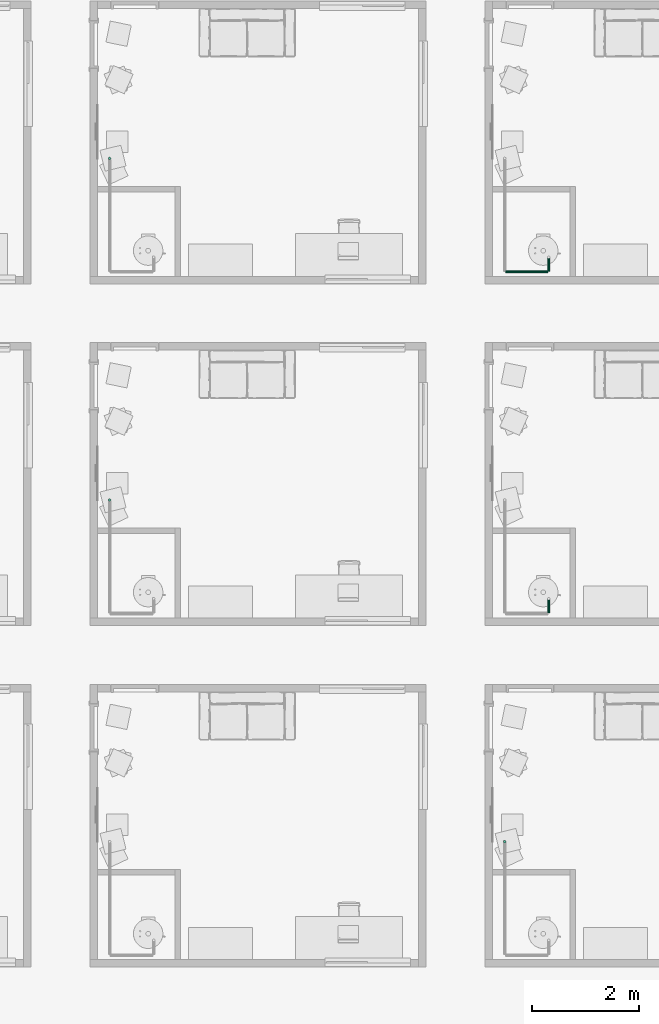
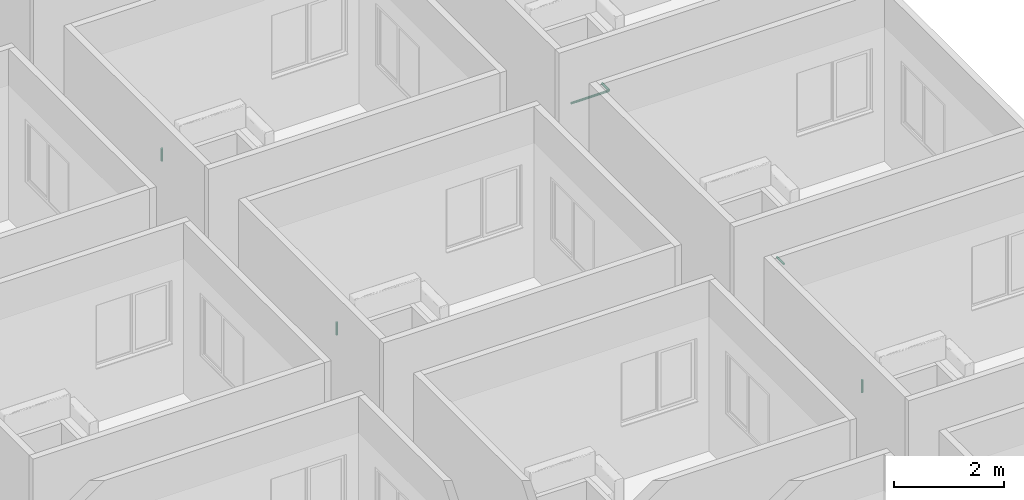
# One storey, part 50 of 69: 6 pipe segments.
"""IFC4 building model written with IfcOpenShell, lengths in centimetres."""

import ifcopenshell
import ifcopenshell.guid

model = None  # the IFC model being written
_history = None  # IfcOwnerHistory: only IFC2X3 demands one
_inside = {}  # id of a spatial element -> (the spatial element, [elements in it])
_under = {}  # id of a project, library or spatial element -> (it, [spatial elements below it])
_declared = {}  # id of a project -> (the project, [libraries it declares])
_typed = {}  # id of a type object -> (the type object, [elements of that type])
_made_of = {}  # id of a material, layer set ... -> (it, [elements and type objects made of it])


def new_model(schema):
    """Start an empty IFC model of exactly this schema.

    Asked for "IFC4X3", IfcOpenShell would pick the latest addendum, in which some entities
    have other attributes; the version numbers below select the first issue.
    IFC2X3 requires an IfcOwnerHistory on every rooted entity: one is made here for all.
    """
    global model, _history
    if schema == "IFC4X3":
        model = ifcopenshell.file(schema_version=(4, 3, 0, 0))
    else:
        model = ifcopenshell.file(schema=schema)
    _inside.clear()
    _under.clear()
    _declared.clear()
    _typed.clear()
    _made_of.clear()
    _history = None
    if model.schema == "IFC2X3":
        org = make("IfcOrganization", Name="unknown")
        user = make(
            "IfcPersonAndOrganization",
            ThePerson=make("IfcPerson", FamilyName="unknown"),
            TheOrganization=org,
        )
        app = make(
            "IfcApplication",
            ApplicationDeveloper=org,
            Version="unknown",
            ApplicationFullName="unknown",
            ApplicationIdentifier="unknown",
        )
        _history = make(
            "IfcOwnerHistory",
            OwningUser=user,
            OwningApplication=app,
            ChangeAction="ADDED",
            CreationDate=0,
        )
    return model


def make(cls, **values):
    """One entity of the class cls with the attributes given. An attribute that is None is left unset."""
    return model.create_entity(
        cls, **{name: value for name, value in values.items() if value is not None}
    )


def entity(cls, *values):
    """Any entity or typed value of the class cls, its attributes in the order of the schema. None: left unset."""
    e = model.create_entity(cls)
    for i, value in enumerate(values):
        if value is not None:
            e[i] = value
    return e


def rooted(cls, **values):
    """An entity with a GlobalId (a new one), such as an element, a storey or a relation."""
    return make(cls, GlobalId=ifcopenshell.guid.new(), OwnerHistory=_history, **values)


def si_unit(unit_type, name, prefix=None):
    """IfcSIUnit, for example si_unit("LENGTHUNIT", "METRE", prefix="MILLI")."""
    return make("IfcSIUnit", UnitType=unit_type, Prefix=prefix, Name=name)


def converted_unit(unit_type, name, factor, base, dimensions=None, offset=None):
    """IfcConversionBasedUnit, such as the inch: factor (a typed value) times the base unit."""
    return make(
        "IfcConversionBasedUnit"
        if offset is None
        else "IfcConversionBasedUnitWithOffset",
        ConversionOffset=offset,
        Dimensions=None
        if dimensions is None
        else entity("IfcDimensionalExponents", *dimensions),
        UnitType=unit_type,
        Name=name,
        ConversionFactor=make(
            "IfcMeasureWithUnit", ValueComponent=factor, UnitComponent=base
        ),
    )


def derived_unit(unit_type, elements):
    """IfcDerivedUnit: a product of units, each with its exponent."""
    return make(
        "IfcDerivedUnit",
        Elements=[
            make("IfcDerivedUnitElement", Unit=unit, Exponent=power)
            for unit, power in elements
        ],
        UnitType=unit_type,
    )


def assignment(units):
    """IfcUnitAssignment: the units of a project."""
    return None if units is None else make("IfcUnitAssignment", Units=units)


def point(xyz):
    """IfcCartesianPoint."""
    return None if xyz is None else make("IfcCartesianPoint", Coordinates=xyz)


def direction(xyz):
    """IfcDirection."""
    return None if xyz is None else make("IfcDirection", DirectionRatios=xyz)


def frame(location, z_axis=None, x_axis=None):
    """IfcAxis2Placement3D, a coordinate frame: its origin and axes. An axis left out is left unset."""
    return make(
        "IfcAxis2Placement3D",
        Location=point(location),
        Axis=direction(z_axis),
        RefDirection=direction(x_axis),
    )


def origin():
    """The frame at (0, 0, 0) with its axes left unset."""
    return frame((0.0, 0.0, 0.0))


def place(relative_to, where):
    """IfcLocalPlacement: puts the frame where relative to a parent placement (None: the world)."""
    return make(
        "IfcLocalPlacement", PlacementRelTo=relative_to, RelativePlacement=where
    )


def context(
    kind, dimensions, precision=None, world=None, true_north=None, identifier=None
):
    """IfcGeometricRepresentationContext, for example the 3D "Model" context."""
    return make(
        "IfcGeometricRepresentationContext",
        ContextIdentifier=identifier,
        ContextType=kind,
        CoordinateSpaceDimension=dimensions,
        Precision=precision,
        WorldCoordinateSystem=world,
        TrueNorth=true_north,
    )


def subcontext(parent, identifier, kind, view, scale=None):
    """IfcGeometricRepresentationSubContext, for example "Body" below "Model"."""
    return make(
        "IfcGeometricRepresentationSubContext",
        ContextIdentifier=identifier,
        ContextType=kind,
        ParentContext=parent,
        TargetScale=scale,
        TargetView=view,
    )


def project(units=None, contexts=None):
    """IfcProject with its units and contexts."""
    return rooted(
        "IfcProject",
        Name="project",
        RepresentationContexts=contexts,
        UnitsInContext=assignment(units),
    )


def spatial(cls, under=None, at=None, **own):
    """A site, building, storey or space (cls), placed at a placement, below another one or the project."""
    s = rooted(cls, ObjectPlacement=at, **own)
    if under is not None:
        _under.setdefault(under.id(), (under, []))[1].append(s)
    return s


def point_list(points):
    """IfcCartesianPointList2D or 3D."""
    cls = (
        "IfcCartesianPointList2D" if len(points[0]) == 2 else "IfcCartesianPointList3D"
    )
    return make(cls, CoordList=points)


def arc(*indices):
    """IfcArcIndex: an arc through three numbered points of an indexed curve."""
    return model.create_entity("IfcArcIndex", indices)


def indexed_curve(points, segments=None, self_intersect=None):
    """IfcIndexedPolyCurve: lines and arcs through numbered points (the first is 1)."""
    return make(
        "IfcIndexedPolyCurve",
        Points=point_list(points),
        Segments=segments,
        SelfIntersect=self_intersect,
    )


def outline(outer, holes=None, kind="AREA"):
    """IfcArbitraryClosedProfileDef: a profile drawn as a closed curve; with holes, ...WithVoids."""
    if holes is None:
        return make("IfcArbitraryClosedProfileDef", ProfileType=kind, OuterCurve=outer)
    return make(
        "IfcArbitraryProfileDefWithVoids",
        ProfileType=kind,
        OuterCurve=outer,
        InnerCurves=holes,
    )


def extrude(swept, where, along, depth):
    """IfcExtrudedAreaSolid: the profile swept, set in the frame where, extruded along a direction by depth."""
    return make(
        "IfcExtrudedAreaSolid",
        SweptArea=swept,
        Position=where,
        ExtrudedDirection=direction(along),
        Depth=depth,
    )


def shape(context_of_items, identifier, shape_type, items):
    """IfcShapeRepresentation: the items that make up one representation, for example the "Body"."""
    return make(
        "IfcShapeRepresentation",
        ContextOfItems=context_of_items,
        RepresentationIdentifier=identifier,
        RepresentationType=shape_type,
        Items=items,
    )


def made_of(thing, what):
    """Note that an element or type object is made of a material, layer set ...; save() writes the relation."""
    if what is not None:
        _made_of.setdefault(what.id(), (what, []))[1].append(thing)
    return thing


def type_object(cls, material=None, **own):
    """A type object (cls), such as IfcWallType, which elements share."""
    return made_of(rooted(cls, **own), material)


def element(
    cls,
    number,
    at=None,
    inside=None,
    cuts=None,
    type_object=None,
    material=None,
    context=None,
    identifier="Body",
    shape_type=None,
    held_by="IfcProductDefinitionShape",
    body=None,
    shapes=None,
    **own,
):
    """One element of the class cls, such as IfcWall. Its Tag is "e" and its number.

    at: its placement. inside: the storey or other place that contains it. cuts: it is an
    opening in that element (IfcRelVoidsElement). A single representation is given by context,
    identifier, shape_type and body (its items); several are given by shapes. held_by: the class
    of the entity that holds the representations. save() writes the other relations.
    """
    e = rooted(cls, Tag="e%d" % number, ObjectPlacement=at, **own)
    if body is not None:
        shapes = [shape(context, identifier, shape_type, body)]
    if shapes is not None:
        e.Representation = make(held_by, Representations=shapes)
    if inside is not None:
        _inside.setdefault(inside.id(), (inside, []))[1].append(e)
    if cuts is not None:
        rooted(
            "IfcRelVoidsElement", RelatingBuildingElement=cuts, RelatedOpeningElement=e
        )
    if type_object is not None:
        _typed.setdefault(type_object.id(), (type_object, []))[1].append(e)
    return made_of(e, material)


def aggregate(whole, parts):
    """IfcRelAggregates: a whole, such as a stair, and the parts it consists of."""
    return rooted("IfcRelAggregates", RelatingObject=whole, RelatedObjects=parts)


def save(model, path):
    """Write the relations noted so far, then the file.

    IfcRelAggregates (storeys below a building ...), IfcRelContainedInSpatialStructure (elements
    in a storey), IfcRelDefinesByType, IfcRelAssociatesMaterial and IfcRelDeclares: one each for
    every whole, place, type object, material and project.
    """
    for whole, parts in _under.values():
        aggregate(whole, parts)
    for where, things in _inside.values():
        rooted(
            "IfcRelContainedInSpatialStructure",
            RelatedElements=things,
            RelatingStructure=where,
        )
    for kind, things in _typed.values():
        rooted("IfcRelDefinesByType", RelatedObjects=things, RelatingType=kind)
    for what, things in _made_of.values():
        rooted("IfcRelAssociatesMaterial", RelatedObjects=things, RelatingMaterial=what)
    for by, libraries in _declared.values():
        rooted("IfcRelDeclares", RelatingContext=by, RelatedDefinitions=libraries)
    model.write(path)


model = new_model("IFC4")

# Units and contexts
model_context = context("Model", 3, precision=0.001, world=origin(), true_north=direction((6.123233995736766e-17, 1.0)))
body_context = subcontext(model_context, "Body", "Model", "MODEL_VIEW")
ifc_project = project(units=[si_unit("LENGTHUNIT", "METRE", prefix="CENTI"), si_unit("AREAUNIT", "SQUARE_METRE"), si_unit("VOLUMEUNIT", "CUBIC_METRE"), derived_unit("THERMALTRANSMITTANCEUNIT", [(si_unit("MASSUNIT", "GRAM", prefix="KILO"), 1), (si_unit("THERMODYNAMICTEMPERATUREUNIT", "KELVIN"), -1), (si_unit("TIMEUNIT", "SECOND"), -3)]), converted_unit("PLANEANGLEUNIT", "DEGREE", entity("IfcPlaneAngleMeasure", 0.017453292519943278), si_unit("PLANEANGLEUNIT", "RADIAN"), dimensions=[0, 0, 0, 0, 0, 0, 0]), derived_unit("MASSDENSITYUNIT", [(si_unit("MASSUNIT", "GRAM", prefix="KILO"), 1), (si_unit("LENGTHUNIT", "METRE"), -3)]), derived_unit("VAPORPERMEABILITYUNIT", [(si_unit("LENGTHUNIT", "METRE"), -1), (si_unit("TIMEUNIT", "SECOND"), 1)]), derived_unit("USERDEFINED", [(si_unit("MASSUNIT", "GRAM", prefix="KILO"), 1), (si_unit("TIMEUNIT", "SECOND"), -3), (si_unit("LENGTHUNIT", "METRE"), 3), (si_unit("ELECTRICCURRENTUNIT", "AMPERE"), -2)]), derived_unit("SPECIFICHEATCAPACITYUNIT", [(si_unit("THERMODYNAMICTEMPERATUREUNIT", "KELVIN"), -1), (si_unit("LENGTHUNIT", "METRE"), 2), (si_unit("TIMEUNIT", "SECOND"), -2)]), derived_unit("THERMALCONDUCTANCEUNIT", [(si_unit("MASSUNIT", "GRAM", prefix="KILO"), 1), (si_unit("THERMODYNAMICTEMPERATUREUNIT", "KELVIN"), -1), (si_unit("TIMEUNIT", "SECOND"), -3), (si_unit("LENGTHUNIT", "METRE"), 1)]), si_unit("PRESSUREUNIT", "PASCAL"), derived_unit("MODULUSOFELASTICITYUNIT", [(si_unit("MASSUNIT", "GRAM", prefix="KILO"), 1), (si_unit("LENGTHUNIT", "METRE"), -1), (si_unit("TIMEUNIT", "SECOND"), -2)]), derived_unit("THERMALEXPANSIONCOEFFICIENTUNIT", [(si_unit("THERMODYNAMICTEMPERATUREUNIT", "KELVIN"), -1)])], contexts=[model_context])

# Site, building, storey
site_placement = place(None, origin())
site = spatial("IfcSite", under=ifc_project, at=site_placement, Name="Default", CompositionType="ELEMENT")
building_placement = place(site_placement, origin())
building = spatial("IfcBuilding", under=site, at=building_placement, Name="IDS Escape Game Building", CompositionType="ELEMENT")
storey_placement = place(building_placement, origin())
storey = spatial("IfcBuildingStorey", under=building, at=storey_placement, Name="00_Ground Floor", CompositionType="ELEMENT", Elevation=0.0)

# Pipe segments
pipe_segment_type = type_object("IfcPipeSegmentType", Name="Pipe Types:Piping Aluminum", PredefinedType="NOTDEFINED")
pipe_segment_1_placement = place(storey_placement, origin())
element("IfcPipeSegment", 1, at=pipe_segment_1_placement, inside=storey, type_object=pipe_segment_type, Name="Pipe Types:Piping Aluminum", ObjectType="Pipe Types:Piping Aluminum", PredefinedType="NOTDEFINED", context=body_context, shape_type="SweptSolid", body=[
    extrude(outline(indexed_curve([(2.4130000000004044, 0.0), (1.7062486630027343, 1.7062486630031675), (0.0, 2.412999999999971), (-1.7062486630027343, 1.7062486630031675), (-2.4130000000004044, 0.0), (-1.7062486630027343, -1.7062486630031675), (0.0, -2.412999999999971), (1.7062486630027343, -1.7062486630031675)], segments=[arc(1, 2, 3), arc(3, 4, 5), arc(5, 6, 7), arc(7, 8, 1)], self_intersect=False)), frame((4458.046716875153, 871.26482792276, 244.0999999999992), z_axis=(0.0, 0.0, 1.0), x_axis=(-1.0, 0.0, 0.0)), (0.0, 0.0, 1.0), 27.90000000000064),
])
pipe_segment_2_placement = place(storey_placement, origin())
element("IfcPipeSegment", 2, at=pipe_segment_2_placement, inside=storey, type_object=pipe_segment_type, Name="Pipe Types:Piping Aluminum", ObjectType="Pipe Types:Piping Aluminum", PredefinedType="NOTDEFINED", context=body_context, shape_type="SweptSolid", body=[
    extrude(outline(indexed_curve([(2.412999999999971, 0.0), (1.7062486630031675, 1.7062486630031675), (0.0, 2.412999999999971), (-1.7062486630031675, 1.7062486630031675), (-2.412999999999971, 0.0), (-1.7062486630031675, -1.7062486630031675), (0.0, -2.412999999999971), (1.7062486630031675, -1.7062486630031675)], segments=[arc(1, 2, 3), arc(3, 4, 5), arc(5, 6, 7), arc(7, 8, 1)], self_intersect=False)), frame((3720.0467168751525, 1509.2648279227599, 244.0999999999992), z_axis=(0.0, 0.0, 1.0), x_axis=(-1.0, 0.0, 0.0)), (0.0, 0.0, 1.0), 27.90000000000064),
])
pipe_segment_3_placement = place(storey_placement, origin())
element("IfcPipeSegment", 3, at=pipe_segment_3_placement, inside=storey, type_object=pipe_segment_type, Name="Pipe Types:Piping Aluminum", ObjectType="Pipe Types:Piping Aluminum", PredefinedType="NOTDEFINED", context=body_context, shape_type="SweptSolid", body=[
    extrude(outline(indexed_curve([(2.412999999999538, -2.7071678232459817e-14), (1.7062486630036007, 1.706248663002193), (1.7325874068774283e-12, 2.412999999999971), (-1.7062486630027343, 1.7062486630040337), (-2.413000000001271, -2.7071678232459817e-14), (-1.7062486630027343, -1.7062486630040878), (1.7325874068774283e-12, -2.413000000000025), (1.7062486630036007, -1.706248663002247)], segments=[arc(1, 2, 3), arc(3, 4, 5), arc(5, 6, 7), arc(7, 8, 1)], self_intersect=False)), frame((4540.150000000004, 1298.3648279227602, 242.0), z_axis=(0.0, 1.0, 0.0), x_axis=(-1.0, 0.0, 0.0)), (0.0, 0.0, 1.0), 25.43517207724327),
])
pipe_segment_4_placement = place(storey_placement, origin())
element("IfcPipeSegment", 4, at=pipe_segment_4_placement, inside=storey, type_object=pipe_segment_type, Name="Pipe Types:Piping Aluminum", ObjectType="Pipe Types:Piping Aluminum", PredefinedType="NOTDEFINED", context=body_context, shape_type="SweptSolid", body=[
    extrude(outline(indexed_curve([(2.412999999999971, 0.0), (1.7062486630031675, 1.7062486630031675), (0.0, 2.412999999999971), (-1.7062486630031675, 1.7062486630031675), (-2.412999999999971, 0.0), (-1.7062486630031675, -1.7062486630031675), (0.0, -2.412999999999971), (1.7062486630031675, -1.7062486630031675)], segments=[arc(1, 2, 3), arc(3, 4, 5), arc(5, 6, 7), arc(7, 8, 1)], self_intersect=False)), frame((3720.0467168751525, 2147.26482792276, 244.0999999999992), z_axis=(0.0, 0.0, 1.0), x_axis=(-1.0, 0.0, 0.0)), (0.0, 0.0, 1.0), 27.90000000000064),
])
pipe_segment_5_placement = place(storey_placement, origin())
element("IfcPipeSegment", 5, at=pipe_segment_5_placement, inside=storey, type_object=pipe_segment_type, Name="Pipe Types:Piping Aluminum", ObjectType="Pipe Types:Piping Aluminum", PredefinedType="NOTDEFINED", context=body_context, shape_type="SweptSolid", body=[
    extrude(outline(indexed_curve([(2.412999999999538, -2.165734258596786e-13), (1.7062486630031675, 1.7062486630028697), (4.331468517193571e-13, 2.4130000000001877), (-1.706248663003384, 1.7062486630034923), (-2.4130000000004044, -1.6243006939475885e-13), (-1.7062486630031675, -1.706248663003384), (4.3314685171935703e-13, -2.412999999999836), (1.7062486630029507, -1.7062486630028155)], segments=[arc(1, 2, 3), arc(3, 4, 5), arc(5, 6, 7), arc(7, 8, 1)], self_intersect=False)), frame((4459.146716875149, 1935.2648279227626, 242.0), z_axis=(1.0, 0.0, 0.0), x_axis=(0.0, 1.0, 0.0)), (0.0, 0.0, 1.0), 79.90328312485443),
])
pipe_segment_6_placement = place(storey_placement, origin())
element("IfcPipeSegment", 6, at=pipe_segment_6_placement, inside=storey, type_object=pipe_segment_type, Name="Pipe Types:Piping Aluminum", ObjectType="Pipe Types:Piping Aluminum", PredefinedType="NOTDEFINED", context=body_context, shape_type="SweptSolid", body=[
    extrude(outline(indexed_curve([(2.412999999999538, -2.7071678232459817e-14), (1.7062486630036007, 1.706248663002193), (1.7325874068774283e-12, 2.412999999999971), (-1.7062486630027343, 1.7062486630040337), (-2.413000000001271, -2.7071678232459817e-14), (-1.7062486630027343, -1.7062486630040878), (1.7325874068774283e-12, -2.413000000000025), (1.7062486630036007, -1.706248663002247)], segments=[arc(1, 2, 3), arc(3, 4, 5), arc(5, 6, 7), arc(7, 8, 1)], self_intersect=False)), frame((4540.150000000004, 1936.3648279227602, 242.0), z_axis=(0.0, 1.0, 0.0), x_axis=(-1.0, 0.0, 0.0)), (0.0, 0.0, 1.0), 25.43517207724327),
])

save(model, "model.ifc")
